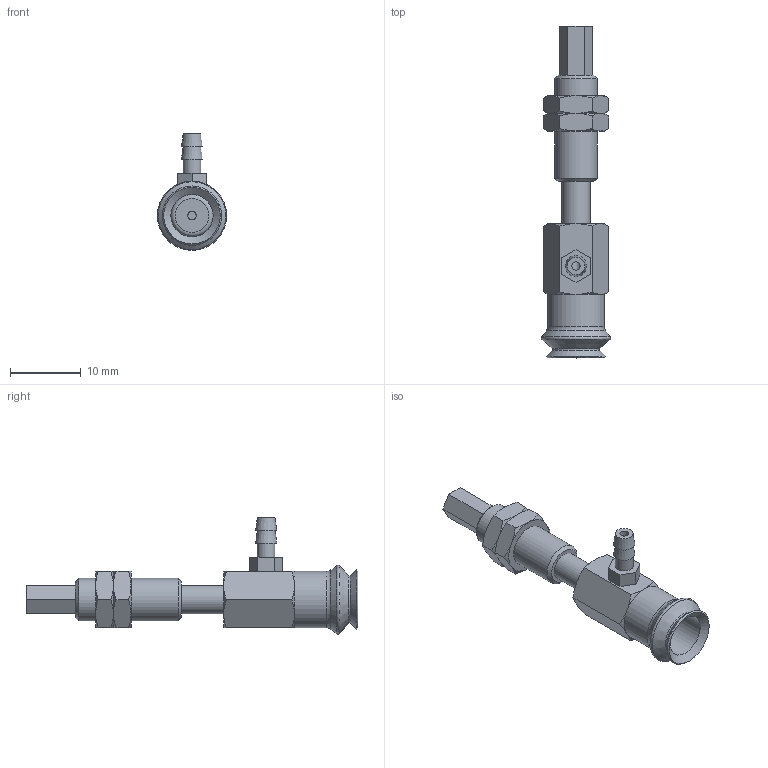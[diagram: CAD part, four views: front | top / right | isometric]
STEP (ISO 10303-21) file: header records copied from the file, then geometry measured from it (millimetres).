
FILE_DESCRIPTION(('STEP AP203'),'1');
FILE_NAME('-T.stp','2025-04-24T00:30:07',(' '),(' '),'Spatial InterOp 3D',' ',' ');
FILE_SCHEMA(('CONFIG_CONTROL_DESIGN'));
Length unit declared in the file: millimetre
Products named in the file (7): BNABPJYS-8-6-※-T; CONNECTOR_S-8-6; NUT-NAPJ-8-6-s; NAPJTS-8-6-FBODY; NAPJTS-8-6-MBODY; BPJG-8-※; T (2)
Assembly tree (7 placements, depth 2):
  BNABPJYS-8-6-※-T
    CONNECTOR_S-8-6
    NUT-NAPJ-8-6-s  x2
    NAPJTS-8-6-FBODY
    NAPJTS-8-6-MBODY
    BPJG-8-※
    T (2)
Bounding box: 9.8 x 47 x 16.5 mm (x, y, z)
Volume: 1632.4 mm3; surface area: 2544.2 mm2
Topology: 7 solids, 7 shells, 147 faces, 310 edges, 186 vertices
Faces by surface type: plane 67, cone 56, cylinder 17, torus 7
Full cylindrical faces by diameter (mm): 1.2 x2, 2.459 x2, 2.5 x1, 3 x2, 4 x4, 5.188 x2, 6 x3, 8 x1
Entity records: 3612 total; most frequent: CARTESIAN_POINT 818, DIRECTION 514, ORIENTED_EDGE 432, AXIS2_PLACEMENT_3D 220, EDGE_CURVE 216, EDGE_LOOP 184, VERTEX_POINT 152, FACE_OUTER_BOUND 147
